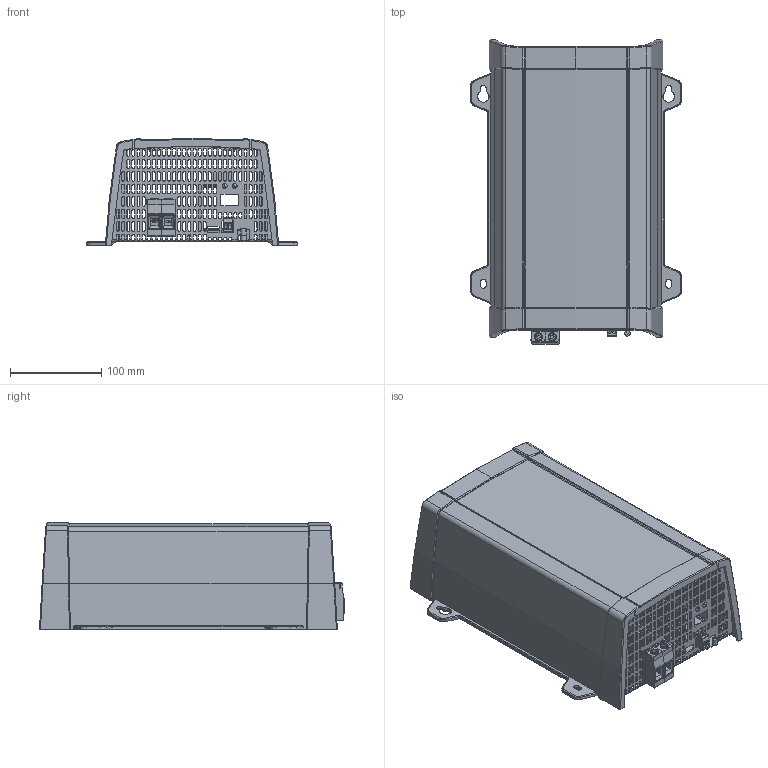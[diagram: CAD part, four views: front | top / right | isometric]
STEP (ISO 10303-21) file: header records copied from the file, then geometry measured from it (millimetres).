
FILE_DESCRIPTION (( 'STEP AP214' ), '1' );
FILE_NAME ('DimensionDrawing 24-48V-1200VA-inverter-rev02-3D.STEP', '2023-10-13T14:37:27', ( '' ), ( '' ), 'SwSTEP 2.0', 'SolidWorks 2023', '' );
FILE_SCHEMA (( 'AUTOMOTIVE_DESIGN' ));
Length unit declared in the file: millimetre
Products named in the file (1): DimensionDrawing 24-48V-1200VA-inverter-rev02-3D
Bounding box: 231.95 x 335.24 x 117.84 mm (x, y, z)
Surface area: 464200.5 mm2 (no closed solid volume)
Topology: 0 solids, 62 shells, 2790 faces, 9610 edges, 6667 vertices
Faces by surface type: cylinder 1462, plane 1147, bspline 119, cone 58, sphere 4
Entity records: 112991 total; most frequent: CARTESIAN_POINT 28558, ORIENTED_EDGE 17429, DIRECTION 17180, EDGE_CURVE 9602, VERTEX_POINT 6663, AXIS2_PLACEMENT_3D 5749, LINE 5682, VECTOR 5682
